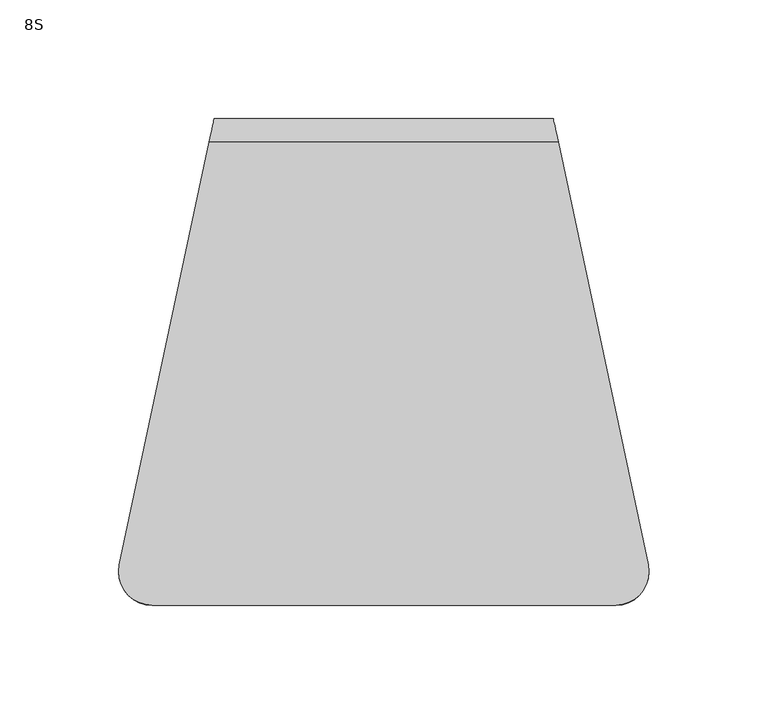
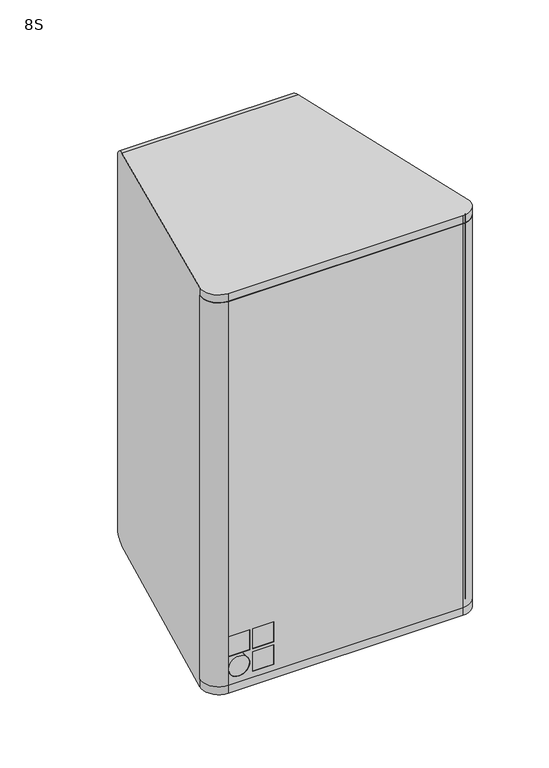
"""IFC4 building model written with IfcOpenShell, lengths in millimetres: proxy geometry, d&b xS-Series 8S Point Source : 8S."""

from ifc_helpers import new_model, si_unit, point, frame, frame_2d, origin, place, context, project, spatial, polyline, circle_curve, ellipse_curve, trimmed, segment, composite_curve, outline, extrude, source, transform, mapped, element, save
from ifc_brep_helpers import plane_surface, cylinder_surface, revolved_surface, advanced_brep


def proxy_8s_ff0c01f1(model_context):
    return source(origin(), model_context, "Body", "SolidModel", [
        extrude(outline(composite_curve([segment(polyline([(-106.2403713, -85.5892363), (106.227745, -85.5892363)]), True, "CONTINUOUS"), segment(trimmed(circle_curve(frame_2d((97.7114398, -88.5)), 9.0), [point((106.227745, -85.5892363))], [point((97.7114398, -97.5))], False, "CARTESIAN"), True, "CONTINUOUS"), segment(polyline([(97.7114398, -97.5), (-97.6104675, -97.5)]), True, "CONTINUOUS"), segment(trimmed(circle_curve(frame_2d((-97.6104675, -88.4182342)), 9.0817658), [point((-97.6104675, -97.5))], [point((-106.2403713, -85.5892363))], False, "CARTESIAN"), True, "CONTINUOUS")], self_intersect=False)), frame((0.0, 0.0, -169.0), z_axis=(0.0, 0.0, 1.0), x_axis=(1.0, 0.0, 0.0)), (0.0, 0.0, 1.0), 338.0),
        advanced_brep(
        [(-79.8104675, -102.5, -126.5), (-79.8104675, -97.5, -126.5), (-79.8104675, -97.5, -144.0), (-79.8104675, -102.5, -144.0), (-97.3104675, -97.5, -144.0), (-97.3104675, -102.5, -144.0), (-97.3104675, -97.5, -126.5), (-97.3104675, -102.5, -126.5), (-59.8104675, -102.5, -126.5), (-59.8104675, -97.5, -126.5), (-59.8104675, -97.5, -144.0), (-59.8104675, -102.5, -144.0), (-77.3104675, -97.5, -144.0), (-77.3104675, -102.5, -144.0), (-77.3104675, -97.5, -126.5), (-77.3104675, -102.5, -126.5), (-59.8104675, -102.5, -146.5), (-59.8104675, -97.5, -146.5), (-59.8104675, -97.5, -164.0), (-59.8104675, -102.5, -164.0), (-77.3104675, -97.5, -164.0), (-77.3104675, -102.5, -164.0), (-77.3104675, -97.5, -146.5), (-77.3104675, -102.5, -146.5), (-88.5604675, -102.5, -164.0), (-88.5604675, -97.5, -164.0), (-88.5604675, -97.5, -146.5), (-88.5604675, -102.5, -146.5), (106.227745, -85.5892363, 169.0), (97.7114398, -97.5, 169.0), (-97.6104675, -97.5, 169.0), (-106.2403713, -85.5892363, 169.0), (-111.4051367, -85.5892363, 169.0), (-97.6104675, -102.5, 169.0), (97.7114398, -102.5, 169.0), (111.4055062, -85.5892363, 169.0), (106.227745, -85.5892363, -169.0), (111.4055062, -85.5892363, -169.0), (97.7114398, -102.5, -169.0), (-97.6104675, -102.5, -169.0), (-111.4051367, -85.5892363, -169.0), (-106.2403713, -85.5892363, -169.0), (-97.6104675, -97.5, -169.0), (97.7114398, -97.5, -169.0)],
        [
            (0, 1),
            (1, 2),
            (2, 3),
            (3, 0),
            (2, 4),
            (4, 5),
            (5, 3),
            (4, 6),
            (6, 7),
            (7, 5),
            (0, 7),
            (6, 1),
            (8, 9),
            (9, 10),
            (10, 11),
            (11, 8),
            (10, 12),
            (12, 13),
            (13, 11),
            (12, 14),
            (14, 15),
            (15, 13),
            (8, 15),
            (14, 9),
            (16, 17),
            (17, 18),
            (18, 19),
            (19, 16),
            (18, 20),
            (20, 21),
            (21, 19),
            (20, 22),
            (22, 23),
            (23, 21),
            (16, 23),
            (22, 17),
            (24, 25),
            (25, 26, circle_curve(frame((-88.5604675, -97.5, -155.25), z_axis=(0.0, 1.0, 0.0), x_axis=(0.0, 0.0, 1.0)), 8.75)),
            (26, 27),
            (27, 24, circle_curve(frame((-88.5604675, -102.5, -155.25), z_axis=(0.0, -1.0, 0.0), x_axis=(0.0, 0.0, 1.0)), 8.75)),
            (24, 27, circle_curve(frame((-88.5604675, -102.5, -155.25), z_axis=(0.0, -1.0, 0.0), x_axis=(0.0, 0.0, 1.0)), 8.75)),
            (26, 25, circle_curve(frame((-88.5604675, -97.5, -155.25), z_axis=(0.0, 1.0, 0.0), x_axis=(0.0, 0.0, 1.0)), 8.75)),
            (28, 29, circle_curve(frame((97.7114398, -88.5, 169.0), z_axis=(0.0, 0.0, -1.0), x_axis=(0.0, -1.0, 0.0)), 9.0)),
            (29, 30),
            (30, 31, circle_curve(frame((-97.6104675, -88.4182342, 169.0), z_axis=(0.0, 0.0, -1.0), x_axis=(0.0, -1.0, 0.0)), 9.0817658)),
            (31, 32),
            (32, 33, circle_curve(frame((-97.6104675, -88.4182342, 169.0), z_axis=(0.0, 0.0, 1.0), x_axis=(0.0, -1.0, 0.0)), 14.0817658)),
            (33, 34),
            (34, 35, circle_curve(frame((97.7114398, -88.5, 169.0), z_axis=(0.0, 0.0, 1.0), x_axis=(0.0, -1.0, 0.0)), 14.0)),
            (35, 28),
            (36, 37),
            (37, 38, circle_curve(frame((97.7114398, -88.5, -169.0), z_axis=(0.0, 0.0, -1.0), x_axis=(0.0, -1.0, 0.0)), 14.0)),
            (38, 39),
            (39, 40, circle_curve(frame((-97.6104675, -88.4182342, -169.0), z_axis=(0.0, 0.0, -1.0), x_axis=(0.0, -1.0, 0.0)), 14.0817658)),
            (40, 41),
            (41, 42, circle_curve(frame((-97.6104675, -88.4182342, -169.0), z_axis=(0.0, 0.0, 1.0), x_axis=(0.0, -1.0, 0.0)), 9.0817658)),
            (42, 43),
            (43, 36, circle_curve(frame((97.7114398, -88.5, -169.0), z_axis=(0.0, 0.0, 1.0), x_axis=(0.0, -1.0, 0.0)), 9.0)),
            (28, 36),
            (43, 29),
            (42, 30),
            (41, 31),
            (40, 32),
            (39, 33),
            (38, 34),
            (37, 35),
        ],
        [
            plane_surface(frame((-79.8104675, -102.5, -144.0), z_axis=(-1.0, 0.0, 0.0), x_axis=(0.0, 1.0, 0.0))),
            plane_surface(frame((-97.3104675, -102.5, -144.0), z_axis=(0.0, 0.0, 1.0), x_axis=(0.0, 1.0, 0.0))),
            plane_surface(frame((-97.3104675, -102.5, -126.5), z_axis=(1.0, 0.0, 0.0), x_axis=(0.0, 1.0, 0.0))),
            plane_surface(frame((-79.8104675, -102.5, -126.5), z_axis=(0.0, 0.0, -1.0), x_axis=(0.0, 1.0, 0.0))),
            plane_surface(frame((-59.8104675, -102.5, -144.0), z_axis=(-1.0, 0.0, 0.0), x_axis=(0.0, 1.0, 0.0))),
            plane_surface(frame((-77.3104675, -102.5, -144.0), z_axis=(0.0, 0.0, 1.0), x_axis=(0.0, 1.0, 0.0))),
            plane_surface(frame((-77.3104675, -102.5, -126.5), z_axis=(1.0, 0.0, 0.0), x_axis=(0.0, 1.0, 0.0))),
            plane_surface(frame((-59.8104675, -102.5, -126.5), z_axis=(0.0, 0.0, -1.0), x_axis=(0.0, 1.0, 0.0))),
            plane_surface(frame((-59.8104675, -102.5, -164.0), z_axis=(-1.0, 0.0, 0.0), x_axis=(0.0, 1.0, 0.0))),
            plane_surface(frame((-77.3104675, -102.5, -164.0), z_axis=(0.0, 0.0, 1.0), x_axis=(0.0, 1.0, 0.0))),
            plane_surface(frame((-77.3104675, -102.5, -146.5), z_axis=(1.0, 0.0, 0.0), x_axis=(0.0, 1.0, 0.0))),
            plane_surface(frame((-59.8104675, -102.5, -146.5), z_axis=(0.0, 0.0, -1.0), x_axis=(0.0, 1.0, 0.0))),
            revolved_surface(polyline([(-88.5604675, -102.5, -146.5), (-88.5604675, -97.5, -146.5)]), (-88.5604675, -142.2477083, -155.25), (0.0, -1.0, 0.0)),
            plane_surface(frame((97.7114398, -97.5, 169.0), z_axis=(0.0, 0.0, 1.0), x_axis=(-1.0, 0.0, 0.0))),
            plane_surface(frame((97.7114398, -97.5, -169.0), z_axis=(0.0, 0.0, -1.0), x_axis=(1.0, 0.0, 0.0))),
            revolved_surface(polyline([(97.7114398, -97.5, -169.0), (97.7114398, -97.5, 169.0)]), (97.7114398, -88.5, -169.0), (0.0, 0.0, -1.0)),
            plane_surface(frame((97.7114398, -97.5, 169.0), z_axis=(0.0, 1.0, 0.0), x_axis=(0.0, 0.0, -1.0))),
            revolved_surface(polyline([(-97.6104675, -97.5, -169.0), (-97.6104675, -97.5, 169.0)]), (-97.6104675, -88.4182342, -169.0), (0.0, 0.0, -1.0)),
            plane_surface(frame((-106.2403713, -85.5892363, 169.0), z_axis=(0.0, 1.0, 0.0), x_axis=(0.0, 0.0, -1.0))),
            cylinder_surface(frame((-97.6104675, -88.4182342, -169.0), z_axis=(0.0, 0.0, 1.0), x_axis=(0.0, -1.0, 0.0)), 14.0817658),
            plane_surface(frame((-97.6104675, -102.5, 169.0), z_axis=(0.0, -1.0, 0.0), x_axis=(0.0, 0.0, -1.0))),
            cylinder_surface(frame((97.7114398, -88.5, -169.0), z_axis=(0.0, 0.0, 1.0), x_axis=(0.0, -1.0, 0.0)), 14.0),
            plane_surface(frame((111.4055062, -85.5892363, 169.0), z_axis=(0.0, 1.0, 0.0), x_axis=(0.0, 0.0, -1.0))),
        ],
        [
            (0, [[1, 2, 3, 4]]),
            (1, [[-3, 5, 6, 7]]),
            (2, [[-6, 8, 9, 10]]),
            (3, [[-1, 11, -9, 12]]),
            (4, [[13, 14, 15, 16]]),
            (5, [[-15, 17, 18, 19]]),
            (6, [[-18, 20, 21, 22]]),
            (7, [[-13, 23, -21, 24]]),
            (8, [[25, 26, 27, 28]]),
            (9, [[-27, 29, 30, 31]]),
            (10, [[-30, 32, 33, 34]]),
            (11, [[-25, 35, -33, 36]]),
            (12, [[37, 38, 39, 40]]),
            (12, [[-37, 41, -39, 42]]),
            (13, [[43, 44, 45, 46, 47, 48, 49, 50]]),
            (14, [[51, 52, 53, 54, 55, 56, 57, 58]]),
            (15, [[-43, 59, -58, 60]]),
            (16, [[-44, -60, -57, 61], [-2, -12, -8, -5], [-14, -24, -20, -17], [-26, -36, -32, -29], [-38, -42]]),
            (17, [[-45, -61, -56, 62]]),
            (18, [[-46, -62, -55, 63]]),
            (19, [[-47, -63, -54, 64]]),
            (20, [[-48, -64, -53, 65], [-4, -7, -10, -11], [-16, -19, -22, -23], [-28, -31, -34, -35], [-40, -41]]),
            (21, [[-49, -65, -52, 66]]),
            (22, [[-50, -66, -51, -59]]),
        ],
    ),
        extrude(outline(polyline([(-59.8104675, -102.5), (-77.3104675, -102.5), (-77.3104675, -97.5), (-59.8104675, -97.5), (-59.8104675, -102.5)])), frame((0.0, 0.0, -144.0), z_axis=(0.0, 0.0, 1.0), x_axis=(1.0, 0.0, 0.0)), (0.0, 0.0, 1.0), 17.5),
        extrude(outline(polyline([(-79.8104675, -102.5), (-97.3104675, -102.5), (-97.3104675, -97.5), (-79.8104675, -97.5), (-79.8104675, -102.5)])), frame((0.0, 0.0, -144.0), z_axis=(0.0, 0.0, 1.0), x_axis=(1.0, 0.0, 0.0)), (0.0, 0.0, 1.0), 17.5),
        extrude(outline(composite_curve([segment(trimmed(circle_curve(frame_2d((-155.25, -88.5604675)), 8.75), [point((-164.0, -88.5604675))], [point((-146.5, -88.5604675))], False, "CARTESIAN"), True, "CONTINUOUS"), segment(trimmed(circle_curve(frame_2d((-155.25, -88.5604675)), 8.75), [point((-146.5, -88.5604675))], [point((-164.0, -88.5604675))], False, "CARTESIAN"), True, "CONTINUOUS")], self_intersect=False)), frame((0.0, -102.5, 0.0), z_axis=(0.0, 1.0, 0.0), x_axis=(0.0, 0.0, 1.0)), (0.0, 0.0, 1.0), 5.0),
        extrude(outline(polyline([(-59.8104675, -102.5), (-77.3104675, -102.5), (-77.3104675, -97.5), (-59.8104675, -97.5), (-59.8104675, -102.5)])), frame((0.0, 0.0, -164.0), z_axis=(0.0, 0.0, 1.0), x_axis=(1.0, 0.0, 0.0)), (0.0, 0.0, 1.0), 17.5),
        advanced_brep(
        [(-35.0, 99.5, 130.0), (-26.0, 99.5, 139.0), (26.0, 99.5, 139.0), (35.0, 99.5, 130.0), (35.0, 99.5, 36.0), (26.0, 99.5, 27.0), (-26.0, 99.5, 27.0), (-35.0, 99.5, 36.0), (-25.9695321, 99.5, 45.508784), (-13.9695321, 99.5, 33.508784), (13.9695321, 99.5, 33.508784), (25.9695321, 99.5, 45.508784), (25.9695321, 99.5, 95.9695321), (13.9695321, 99.5, 107.9695321), (-13.9695321, 99.5, 107.9695321), (-25.9695321, 99.5, 95.9695321), (-35.0, 102.5, 130.0), (-26.0, 102.5, 139.0), (26.0, 102.5, 139.0), (35.0, 102.5, 130.0), (35.0, 102.5, 36.0), (26.0, 102.5, 27.0), (-26.0, 102.5, 27.0), (-35.0, 102.5, 36.0), (-13.9695321, 83.5, 33.508784), (-25.9695321, 83.5, 45.508784), (-25.9695321, 83.5, 95.9695321), (-13.9695321, 83.5, 107.9695321), (13.9695321, 83.5, 107.9695321), (25.9695321, 83.5, 95.9695321), (25.9695321, 83.5, 45.508784), (13.9695321, 83.5, 33.508784), (111.4055062, -85.5892363, 169.0), (97.7114398, -102.5, 169.0), (-97.6104675, -102.5, 169.0), (-111.4051367, -85.5892363, 169.0), (-111.4051367, -85.5892363, -169.0), (-97.6104675, -102.5, -169.0), (97.7114398, -102.5, -169.0), (111.4055062, -85.5892363, -169.0), (-111.3845129, -85.4904705, 175.729115), (-73.5176241, 92.6592347, 172.8919941), (-71.4259049, 102.5, 162.8932619), (-71.4259049, 102.5, -162.8932619), (-73.5176241, 92.6592347, -172.8919941), (-111.3845129, -85.4904705, -175.729115), (71.4259049, 102.5, 162.8932619), (71.4259049, 102.5, -162.8932619), (111.4055062, -85.5892363, -175.7306878), (73.5176241, 92.6592347, -172.8919941), (73.5176241, 92.6592347, 172.8919941), (111.4055062, -85.5892363, 175.7306878), (-97.6104675, -102.5, 176.0), (97.7114398, -102.5, 176.0), (-97.6104675, -102.5, -176.0), (97.7114398, -102.5, -176.0)],
        [
            (0, 1, circle_curve(frame((-26.0, 99.5, 130.0), z_axis=(0.0, 1.0, 0.0), x_axis=(-1.0, 0.0, 0.0)), 9.0)),
            (1, 2),
            (2, 3, circle_curve(frame((26.0, 99.5, 130.0), z_axis=(0.0, 1.0, 0.0), x_axis=(-1.0, 0.0, 0.0)), 9.0)),
            (3, 4),
            (4, 5, circle_curve(frame((26.0, 99.5, 36.0), z_axis=(0.0, 1.0, 0.0), x_axis=(-1.0, 0.0, 0.0)), 9.0)),
            (5, 6),
            (6, 7, circle_curve(frame((-26.0, 99.5, 36.0), z_axis=(0.0, 1.0, 0.0), x_axis=(-1.0, 0.0, 0.0)), 9.0)),
            (7, 0),
            (8, 9, circle_curve(frame((-13.9695321, 99.5, 45.508784), z_axis=(0.0, -1.0, 0.0), x_axis=(-1.0, 0.0, 0.0)), 12.0)),
            (9, 10),
            (10, 11, circle_curve(frame((13.9695321, 99.5, 45.508784), z_axis=(0.0, -1.0, 0.0), x_axis=(-1.0, 0.0, 0.0)), 12.0)),
            (11, 12),
            (12, 13, circle_curve(frame((13.9695321, 99.5, 95.9695321), z_axis=(0.0, -1.0, 0.0), x_axis=(-1.0, 0.0, 0.0)), 12.0)),
            (13, 14),
            (14, 15, circle_curve(frame((-13.9695321, 99.5, 95.9695321), z_axis=(0.0, -1.0, 0.0), x_axis=(-1.0, 0.0, 0.0)), 12.0)),
            (15, 8),
            (0, 16),
            (16, 17, circle_curve(frame((-26.0, 102.5, 130.0), z_axis=(0.0, 1.0, 0.0), x_axis=(-1.0, 0.0, 0.0)), 9.0)),
            (17, 1),
            (17, 18),
            (18, 2),
            (18, 19, circle_curve(frame((26.0, 102.5, 130.0), z_axis=(0.0, 1.0, 0.0), x_axis=(-1.0, 0.0, 0.0)), 9.0)),
            (19, 3),
            (19, 20),
            (20, 4),
            (20, 21, circle_curve(frame((26.0, 102.5, 36.0), z_axis=(0.0, 1.0, 0.0), x_axis=(-1.0, 0.0, 0.0)), 9.0)),
            (21, 5),
            (21, 22),
            (22, 6),
            (22, 23, circle_curve(frame((-26.0, 102.5, 36.0), z_axis=(0.0, 1.0, 0.0), x_axis=(-1.0, 0.0, 0.0)), 9.0)),
            (23, 7),
            (23, 16),
            (24, 25, circle_curve(frame((-13.9695321, 83.5, 45.508784), z_axis=(0.0, 1.0, 0.0), x_axis=(-1.0, 0.0, 0.0)), 12.0)),
            (25, 26),
            (26, 27, circle_curve(frame((-13.9695321, 83.5, 95.9695321), z_axis=(0.0, 1.0, 0.0), x_axis=(-1.0, 0.0, 0.0)), 12.0)),
            (27, 28),
            (28, 29, circle_curve(frame((13.9695321, 83.5, 95.9695321), z_axis=(0.0, 1.0, 0.0), x_axis=(-1.0, 0.0, 0.0)), 12.0)),
            (29, 30),
            (30, 31, circle_curve(frame((13.9695321, 83.5, 45.508784), z_axis=(0.0, 1.0, 0.0), x_axis=(-1.0, 0.0, 0.0)), 12.0)),
            (31, 24),
            (32, 33, circle_curve(frame((97.7114398, -88.5, 169.0), z_axis=(0.0, 0.0, -1.0), x_axis=(0.0, -1.0, 0.0)), 14.0)),
            (33, 34),
            (34, 35, circle_curve(frame((-97.6104675, -88.4182342, 169.0), z_axis=(0.0, 0.0, -1.0), x_axis=(0.0, -1.0, 0.0)), 14.0817658)),
            (35, 32),
            (36, 37, circle_curve(frame((-97.6104675, -88.4182342, -169.0), z_axis=(0.0, 0.0, 1.0), x_axis=(0.0, -1.0, 0.0)), 14.0817658)),
            (37, 38),
            (38, 39, circle_curve(frame((97.7114398, -88.5, -169.0), z_axis=(0.0, 0.0, 1.0), x_axis=(0.0, -1.0, 0.0)), 14.0)),
            (39, 36),
            (24, 9),
            (8, 25),
            (15, 26),
            (14, 27),
            (13, 28),
            (12, 29),
            (11, 30),
            (10, 31),
            (36, 35),
            (35, 40),
            (40, 41),
            (41, 42, ellipse_curve(frame((-73.5514705, 92.5, 162.8932619), z_axis=(-0.9781476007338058, 0.207911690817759, 0.0), x_axis=(-0.20791169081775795, -0.9781476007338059, 0.0)), 10.2234059, 10.0)),
            (42, 43),
            (43, 44, ellipse_curve(frame((-73.5514705, 92.5, -162.8932619), z_axis=(-0.9781476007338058, 0.207911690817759, 0.0), x_axis=(-0.20791169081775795, -0.9781476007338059, 0.0)), 10.2234059, 10.0)),
            (44, 45),
            (45, 36),
            (42, 46),
            (46, 47),
            (47, 43),
            (32, 39),
            (39, 48),
            (48, 49),
            (49, 47, ellipse_curve(frame((73.5514705, 92.5, -162.8932619), z_axis=(0.9781476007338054, 0.20791169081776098, 0.0), x_axis=(-0.20791169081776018, 0.9781476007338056, 0.0)), 10.2234059, 10.0)),
            (46, 50, ellipse_curve(frame((73.5514705, 92.5, 162.8932619), z_axis=(0.9781476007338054, 0.20791169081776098, 0.0), x_axis=(-0.20791169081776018, 0.9781476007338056, 0.0)), 10.2234059, 10.0)),
            (50, 51),
            (51, 32),
            (34, 52),
            (52, 40, ellipse_curve(frame((-97.6104675, -88.4182342, 175.775741), z_axis=(0.0, -0.015923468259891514, -0.9998732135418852), x_axis=(0.0, -0.9998732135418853, 0.015923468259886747)), 14.0835514, 14.0817658)),
            (33, 53),
            (53, 52),
            (51, 53, ellipse_curve(frame((97.7114398, -88.5, 175.7770432), z_axis=(0.0, -0.015923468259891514, -0.9998732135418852), x_axis=(0.0, -0.9998732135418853, 0.015923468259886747)), 14.0017752, 14.0)),
            (45, 54, ellipse_curve(frame((-97.6104675, -88.4182342, -175.775741), z_axis=(0.0, -0.015923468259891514, 0.9998732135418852), x_axis=(0.0, 0.9998732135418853, 0.015923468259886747)), 14.0835514, 14.0817658)),
            (54, 37),
            (54, 55),
            (55, 38),
            (55, 48, ellipse_curve(frame((97.7114398, -88.5, -175.7770432), z_axis=(0.0, -0.015923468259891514, 0.9998732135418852), x_axis=(0.0, 0.9998732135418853, 0.015923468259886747)), 14.0017752, 14.0)),
            (49, 44),
            (50, 41),
        ],
        [
            plane_surface(frame((-35.0, 99.5, 130.0), z_axis=(0.0, 1.0, 0.0), x_axis=(0.0, 0.0, -1.0))),
            revolved_surface(polyline([(-35.0, 102.5, 130.0), (-35.0, 99.5, 130.0)]), (-26.0, 99.5, 130.0), (0.0, 1.0, 0.0)),
            plane_surface(frame((-26.0, 102.5, 139.0), z_axis=(0.0, 0.0, -1.0), x_axis=(0.0, -1.0, 0.0))),
            revolved_surface(polyline([(17.0, 102.5, 130.0), (17.0, 99.5, 130.0)]), (26.0, 99.5, 130.0), (0.0, 1.0, 0.0)),
            plane_surface(frame((35.0, 102.5, 130.0), z_axis=(-1.0, 0.0, 0.0), x_axis=(0.0, -1.0, 0.0))),
            revolved_surface(polyline([(17.0, 102.5, 36.0), (17.0, 99.5, 36.0)]), (26.0, 99.5, 36.0), (0.0, 1.0, 0.0)),
            plane_surface(frame((26.0, 102.5, 27.0), z_axis=(0.0, 0.0, 1.0), x_axis=(0.0, -1.0, 0.0))),
            revolved_surface(polyline([(-35.0, 102.5, 36.0), (-35.0, 99.5, 36.0)]), (-26.0, 99.5, 36.0), (0.0, 1.0, 0.0)),
            plane_surface(frame((-35.0, 102.5, 36.0), z_axis=(1.0, 0.0, 0.0), x_axis=(0.0, -1.0, 0.0))),
            plane_surface(frame((-25.9695321, 83.5, 45.508784), z_axis=(0.0, 1.0, 0.0), x_axis=(0.0, 0.0, -1.0))),
            plane_surface(frame((-97.6104675, -102.5, 169.0), z_axis=(0.0, 0.0, -1.0), x_axis=(-1.0, 0.0, 0.0))),
            plane_surface(frame((-97.6104675, -102.5, -169.0), z_axis=(0.0, 0.0, 1.0), x_axis=(1.0, 0.0, 0.0))),
            revolved_surface(polyline([(-25.969532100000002, 99.5, 45.508784), (-25.969532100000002, 83.5, 45.508784)]), (-13.9695321, 83.5, 45.508784), (0.0, 1.0, 0.0)),
            plane_surface(frame((-25.9695321, 102.5, 45.508784), z_axis=(1.0, 0.0, 0.0), x_axis=(0.0, -1.0, 0.0))),
            revolved_surface(polyline([(-25.969532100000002, 99.5, 95.9695321), (-25.969532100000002, 83.5, 95.9695321)]), (-13.9695321, 83.5, 95.9695321), (0.0, 1.0, 0.0)),
            plane_surface(frame((-13.9695321, 102.5, 107.9695321), z_axis=(0.0, 0.0, -1.0), x_axis=(0.0, -1.0, 0.0))),
            revolved_surface(polyline([(1.9695321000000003, 99.5, 95.9695321), (1.9695321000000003, 83.5, 95.9695321)]), (13.9695321, 83.5, 95.9695321), (0.0, 1.0, 0.0)),
            plane_surface(frame((25.9695321, 102.5, 95.9695321), z_axis=(-1.0, 0.0, 0.0), x_axis=(0.0, -1.0, 0.0))),
            revolved_surface(polyline([(1.9695321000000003, 99.5, 45.508784), (1.9695321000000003, 83.5, 45.508784)]), (13.9695321, 83.5, 45.508784), (0.0, 1.0, 0.0)),
            plane_surface(frame((13.9695321, 102.5, 33.508784), z_axis=(0.0, 0.0, 1.0), x_axis=(0.0, -1.0, 0.0))),
            plane_surface(frame((-111.4055062, -85.5892363, -176.0), z_axis=(-0.9781476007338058, 0.207911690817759, 0.0), x_axis=(0.0, 0.0, 1.0))),
            plane_surface(frame((-71.4259049, 102.5, -176.0), z_axis=(0.0, 1.0, 0.0), x_axis=(0.0, 0.0, 1.0))),
            plane_surface(frame((71.4259049, 102.5, -176.0), z_axis=(0.9781476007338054, 0.20791169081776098, 0.0), x_axis=(0.0, 0.0, 1.0))),
            plane_surface(frame((111.4055062, -85.5892363, -176.0), z_axis=(0.0, -1.0, 0.0), x_axis=(0.0, 0.0, 1.0))),
            cylinder_surface(frame((-97.6104675, -88.4182342, 169.0), z_axis=(0.0, 0.0, 1.0), x_axis=(0.0, -1.0, 0.0)), 14.0817658),
            plane_surface(frame((-97.6104675, -102.5, 176.0), z_axis=(0.0, -1.0, 0.0), x_axis=(0.0, 0.0, -1.0))),
            cylinder_surface(frame((97.7114398, -88.5, 169.0), z_axis=(0.0, 0.0, 1.0), x_axis=(0.0, -1.0, 0.0)), 14.0),
            cylinder_surface(frame((-97.6104675, -88.4182342, -176.0), z_axis=(0.0, 0.0, 1.0), x_axis=(0.0, -1.0, 0.0)), 14.0817658),
            plane_surface(frame((-97.6104675, -102.5, -169.0), z_axis=(0.0, -1.0, 0.0), x_axis=(0.0, 0.0, -1.0))),
            cylinder_surface(frame((97.7114398, -88.5, -176.0), z_axis=(0.0, 0.0, 1.0), x_axis=(0.0, -1.0, 0.0)), 14.0),
            cylinder_surface(frame((-120.0, 92.5, -162.8932619), z_axis=(-1.0, 0.0, 0.0), x_axis=(0.0, 1.0, 0.0)), 10.0),
            plane_surface(frame((120.0, 92.6592347, -172.8919941), z_axis=(0.0, 0.015923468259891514, -0.9998732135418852), x_axis=(-1.0, 0.0, 0.0))),
            plane_surface(frame((120.0, -102.5, 176.0), z_axis=(0.0, 0.015923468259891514, 0.9998732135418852), x_axis=(-1.0, 0.0, 0.0))),
            cylinder_surface(frame((0.0, 92.5, 162.8932619), z_axis=(-1.0, 0.0, 0.0), x_axis=(0.0, 1.0, 0.0)), 10.0),
        ],
        [
            (0, [[1, 2, 3, 4, 5, 6, 7, 8], [9, 10, 11, 12, 13, 14, 15, 16]]),
            (1, [[-1, 17, 18, 19]]),
            (2, [[-2, -19, 20, 21]]),
            (3, [[-3, -21, 22, 23]]),
            (4, [[-4, -23, 24, 25]]),
            (5, [[-5, -25, 26, 27]]),
            (6, [[-6, -27, 28, 29]]),
            (7, [[-7, -29, 30, 31]]),
            (8, [[-8, -31, 32, -17]]),
            (9, [[33, 34, 35, 36, 37, 38, 39, 40]]),
            (10, [[41, 42, 43, 44]]),
            (11, [[45, 46, 47, 48]]),
            (12, [[-33, 49, -9, 50]]),
            (13, [[-34, -50, -16, 51]]),
            (14, [[-35, -51, -15, 52]]),
            (15, [[-36, -52, -14, 53]]),
            (16, [[-37, -53, -13, 54]]),
            (17, [[-38, -54, -12, 55]]),
            (18, [[-39, -55, -11, 56]]),
            (19, [[-40, -56, -10, -49]]),
            (20, [[57, 58, 59, 60, 61, 62, 63, 64]]),
            (21, [[-61, 65, 66, 67], [-18, -32, -30, -28, -26, -24, -22, -20]]),
            (22, [[68, 69, 70, 71, -66, 72, 73, 74]]),
            (23, [[-44, -57, -48, -68]]),
            (24, [[-43, 75, 76, -58]]),
            (25, [[-42, 77, 78, -75]]),
            (26, [[-41, -74, 79, -77]]),
            (27, [[-45, -64, 80, 81]]),
            (28, [[-46, -81, 82, 83]]),
            (29, [[-47, -83, 84, -69]]),
            (30, [[85, -62, -67, -71]]),
            (31, [[-85, -70, -84, -82, -80, -63]]),
            (32, [[86, -59, -76, -78, -79, -73]]),
            (33, [[-86, -72, -65, -60]]),
        ],
    ),
    ])


if __name__ == "__main__":
    model = new_model("IFC4")
    model_context = context("Model", 3, world=origin())
    ifc_project = project(units=[si_unit("LENGTHUNIT", "METRE", prefix="MILLI")], contexts=[model_context])
    site = spatial("IfcSite", under=ifc_project)
    building = spatial("IfcBuilding", under=site)
    placement = place(None, origin())
    proxy_8s_shape = proxy_8s_ff0c01f1(model_context)
    element("IfcBuildingElementProxy", 1, Name="d&b xS-Series 8S Point Source : 8S", ObjectType="d&b xS-Series 8S Point Source : 8S", at=placement, inside=building, context=model_context, shape_type="MappedRepresentation", body=[
        mapped(proxy_8s_shape, transform((0.0, 0.0, 0.0), x_axis=(1.0, 0.0, 0.0), y_axis=(0.0, 1.0, 0.0), z_axis=(0.0, 0.0, 1.0))),
    ])
    save(model, "model.ifc")
